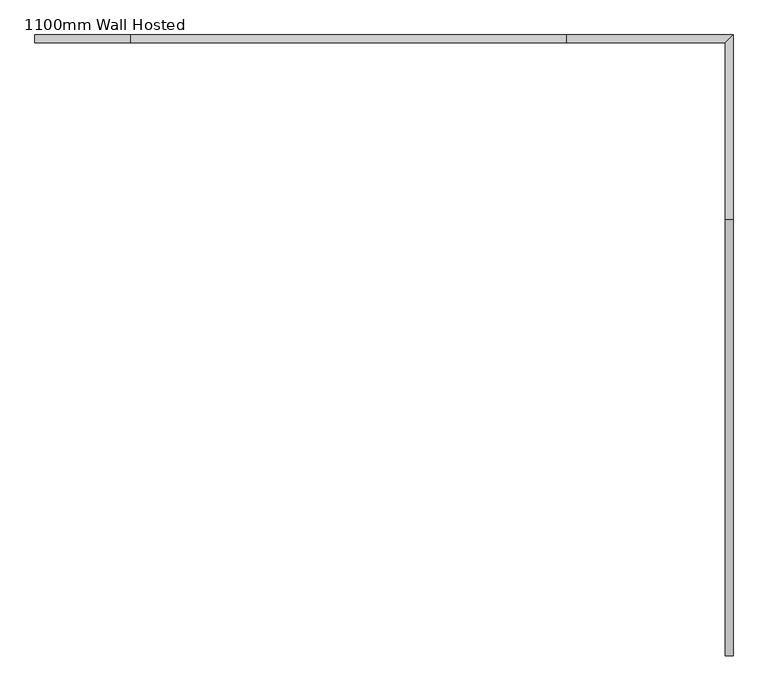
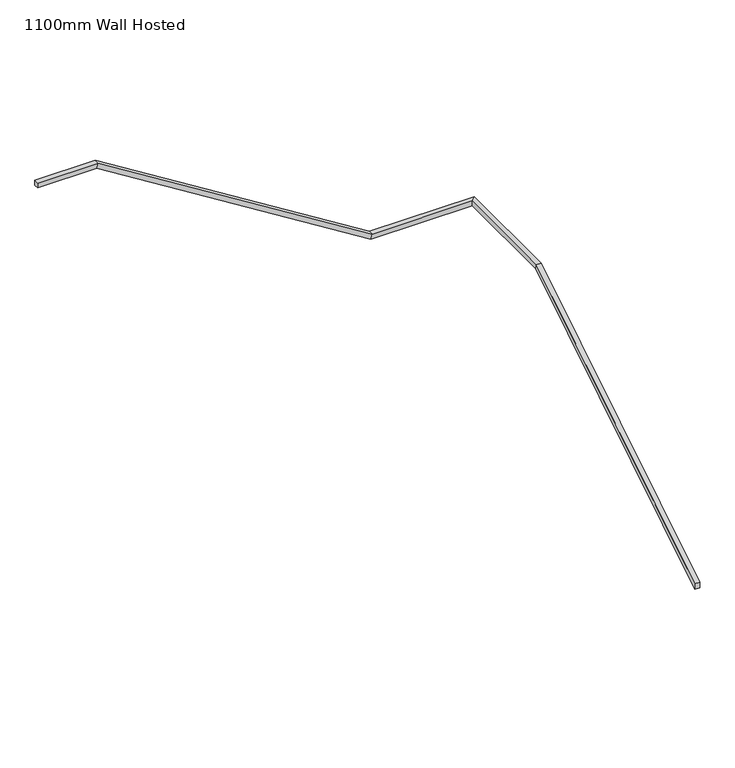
"""IFC4 building model written with IfcOpenShell, lengths in millimetres: railing geometry, 1100mm Wall Hosted."""

from ifc_helpers import new_model, si_unit, origin, place, context, project, spatial, faceted_brep, source, transform, mapped, element, save


def railing_1100mm_wall_hosted_fa47f578(model_context):
    return source(origin(), model_context, "Body", "Brep", [
        faceted_brep([(13.7436928, 1098.3390027, 46994.1714286), (-36.2563072, 1098.3390027, 46994.1714286), (-36.2563072, 1098.3390027, 46935.2520257), (13.7436928, 1098.3390027, 46935.2520257), (13.7436928, 3892.3390027, 48735.8857143), (-36.2563072, 3892.3390027, 48735.8857143), (-36.2563072, 3906.6472115, 48685.8857143), (13.7436928, 3906.6472115, 48685.8857143), (13.7436928, 5078.0251138, 48735.8857143), (-36.2563072, 5028.0251138, 48735.8857143), (-36.2563072, 5028.0251138, 48685.8857143), (13.7436928, 5078.0251138, 48685.8857143), (-1053.0563072, 5078.0251138, 48735.8857143), (-1053.0563072, 5028.0251138, 48735.8857143), (-1067.364516, 5028.0251138, 48685.8857143), (-1067.364516, 5078.0251138, 48685.8857143), (-3847.0563072, 5078.0251138, 50477.6), (-3847.0563072, 5028.0251138, 50477.6), (-3861.364516, 5028.0251138, 50427.6), (-3861.364516, 5078.0251138, 50427.6), (-4463.0063072, 5078.0251138, 50477.6), (-4463.0063072, 5078.0251138, 50427.6), (-4463.0063072, 5028.0251138, 50427.6), (-4463.0063072, 5028.0251138, 50477.6)], [[[0, 1, 2, 3]], [[1, 0, 4, 5]], [[2, 1, 5, 6]], [[3, 2, 6, 7]], [[0, 3, 7, 4]], [[5, 4, 8, 9]], [[6, 5, 9, 10]], [[7, 6, 10, 11]], [[4, 7, 11, 8]], [[9, 8, 12, 13]], [[10, 9, 13, 14]], [[11, 10, 14, 15]], [[8, 11, 15, 12]], [[13, 12, 16, 17]], [[14, 13, 17, 18]], [[15, 14, 18, 19]], [[12, 15, 19, 16]], [[20, 21, 22, 23]], [[17, 16, 20, 23]], [[18, 17, 23, 22]], [[19, 18, 22, 21]], [[16, 19, 21, 20]]]),
    ])


if __name__ == "__main__":
    model = new_model("IFC4")
    model_context = context("Model", 3, world=origin())
    ifc_project = project(units=[si_unit("LENGTHUNIT", "METRE", prefix="MILLI")], contexts=[model_context])
    site = spatial("IfcSite", under=ifc_project)
    building = spatial("IfcBuilding", under=site)
    placement = place(None, origin())
    railing_1100mm_wall_hosted_shape = railing_1100mm_wall_hosted_fa47f578(model_context)
    element("IfcRailing", 1, ObjectType="1100mm Wall Hosted", at=placement, inside=building, context=model_context, shape_type="MappedRepresentation", body=[
        mapped(railing_1100mm_wall_hosted_shape, transform((0.0, 0.0, 0.0), x_axis=(1.0, 0.0, 0.0), y_axis=(0.0, 1.0, 0.0), z_axis=(0.0, 0.0, 1.0))),
    ])
    save(model, "model.ifc")
